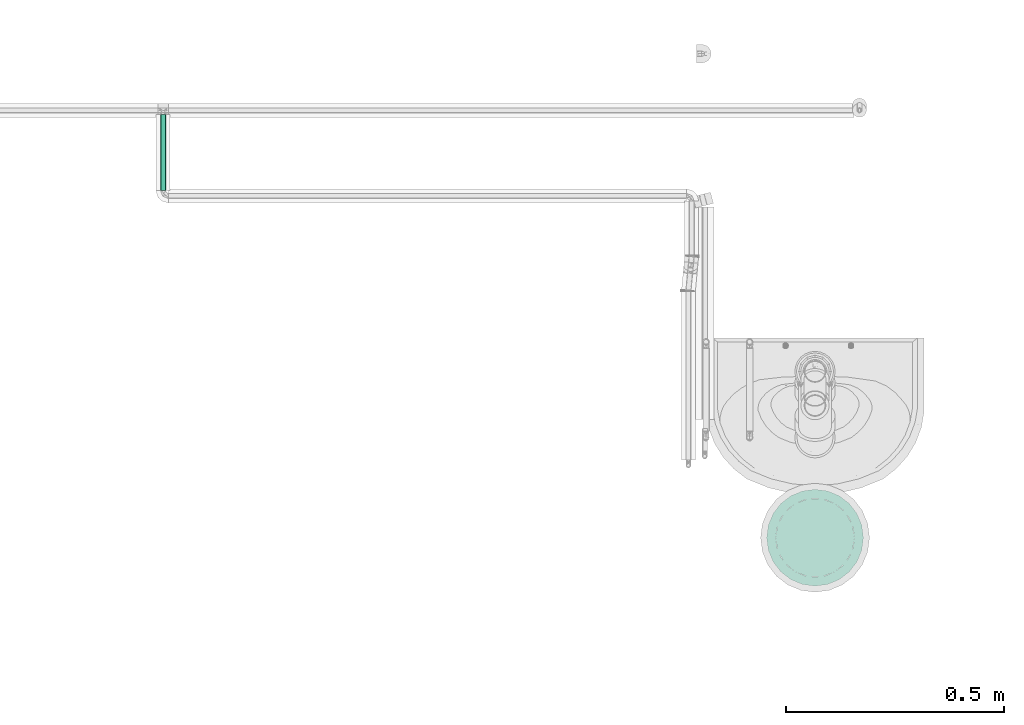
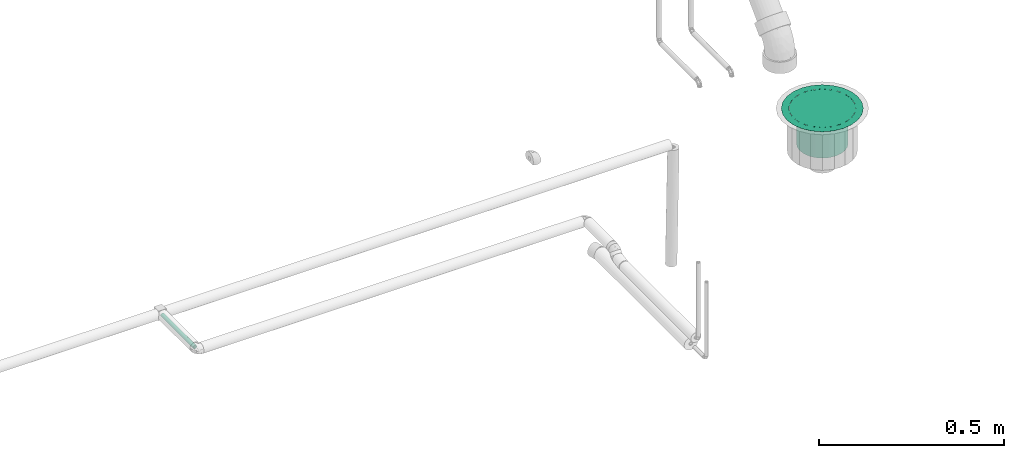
# One storey, part 55 of 108: 1 flow segment, 1 flow terminal.
"""IFC2X3 building model written with IfcOpenShell, lengths in millimetres."""

from ifc_helpers import new_model, entity, si_unit, converted_unit, derived_unit, direction, frame, origin_with_axes, origin_2d_with_axis, place, context, subcontext, project, spatial, hollow_circle, extrude, open_shell, surface_model, source, transform, mapped, type_object, element, save


model = new_model("IFC2X3")

# Units and contexts
model_context = context("Model", 3, precision=0.01, world=frame((0.0, 4.29681676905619e-09, 0.0)), true_north=direction((4.01073788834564e-13, 1.0)))
plan_context = context("Plan", 3, precision=0.01, world=frame((0.0, 4.29681676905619e-09, 0.0)), true_north=direction((4.01073788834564e-13, 1.0)))
body_context = subcontext(model_context, "Body", "Model", "MODEL_VIEW")
ifc_project = project(units=[converted_unit("PLANEANGLEUNIT", "DEGREE", entity("IfcPositiveLengthMeasure", 0.0174532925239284), si_unit("PLANEANGLEUNIT", "RADIAN"), dimensions=[0, 0, 0, 0, 0, 0, 0]), si_unit("AREAUNIT", "SQUARE_METRE"), si_unit("LENGTHUNIT", "METRE", prefix="MILLI"), si_unit("MASSUNIT", "GRAM", prefix="KILO"), si_unit("POWERUNIT", "WATT"), si_unit("PRESSUREUNIT", "PASCAL", prefix="KILO"), si_unit("FORCEUNIT", "NEWTON", prefix="KILO"), si_unit("ELECTRICVOLTAGEUNIT", "VOLT"), si_unit("ELECTRICCURRENTUNIT", "AMPERE"), si_unit("THERMODYNAMICTEMPERATUREUNIT", "DEGREE_CELSIUS"), si_unit("TIMEUNIT", "SECOND"), si_unit("VOLUMEUNIT", "CUBIC_METRE"), derived_unit("LINEARVELOCITYUNIT", [(si_unit("LENGTHUNIT", "METRE"), 1), (si_unit("TIMEUNIT", "SECOND"), -1)]), derived_unit("VOLUMETRICFLOWRATEUNIT", [(si_unit("VOLUMEUNIT", "CUBIC_METRE"), 1), (si_unit("TIMEUNIT", "SECOND"), -1)]), derived_unit("THERMALTRANSMITTANCEUNIT", [(si_unit("POWERUNIT", "WATT"), 1), (si_unit("THERMODYNAMICTEMPERATUREUNIT", "KELVIN"), -1), (si_unit("AREAUNIT", "SQUARE_METRE"), -1)]), derived_unit("SOUNDPRESSUREUNIT", [(si_unit("PRESSUREUNIT", "PASCAL"), 1)])], contexts=[model_context, plan_context])

# Site, building, storey
site_placement = place(None, frame((0.0, -4.29681676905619e-09, 0.0), z_axis=(0.0, 0.0, 1.0), x_axis=(1.0, 0.0, 0.0)))
site = spatial("IfcSite", under=ifc_project, at=site_placement, CompositionType="ELEMENT")
building_placement = place(site_placement, frame((0.0, 4.29681676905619e-09, 0.0), z_axis=(0.0, 0.0, 1.0), x_axis=(1.0, 0.0, 0.0)))
building = spatial("IfcBuilding", under=site, at=building_placement, Name="mc-building", CompositionType="ELEMENT")
storey_placement = place(building_placement, frame((0.0, 0.0, 210200.0), z_axis=(0.0, 0.0, 1.0), x_axis=(1.0, 0.0, 0.0)))
storey = spatial("IfcBuildingStorey", under=building, at=storey_placement, Name="Nivå F - 0,7 m", CompositionType="ELEMENT", Elevation=210200.0)

# Flow segment
pipe_segment_type = type_object("IfcPipeSegmentType", Name="Kobberrør", PredefinedType="RIGIDSEGMENT")
shared_shape_1 = source(origin_with_axes(), body_context, "Body", "SweptSolid", [
    extrude(hollow_circle(Radius=6.0, WallThickness=2.0, at=origin_2d_with_axis()), frame((0.0, 0.0, 0.0), z_axis=(1.0, 0.0, 0.0), x_axis=(0.0, 1.0, 0.0)), (0.0, 0.0, 1.0), 175.2),
])
flow_segment_placement = place(storey_placement, frame((337914.44674, 461294.19294, -735.809999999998), z_axis=(0.0, 0.0, 1.0), x_axis=(0.0, -1.0, 0.0)))
element("IfcFlowSegment", 1, at=flow_segment_placement, inside=storey, type_object=pipe_segment_type, Name="Kobberrør", context=body_context, shape_type="MappedRepresentation", body=[
    mapped(shared_shape_1, transform((0.0, 0.0, 0.0), scale=1.0)),
])

# Flow terminal
waste_terminal_type = type_object("IfcWasteTerminalType", Name="BM NO. 210.200.075 V  MULTI 206-75S D150 Horizontal", PredefinedType="NOTDEFINED")
shared_shape_2 = source(origin_with_axes(), body_context, "Body", "SurfaceModel", [
    surface_model("IfcShellBasedSurfaceModel", [(10.04218, -37.47792, -122.9), (19.4, -33.60178, -122.9), (27.43574, -27.43574, -122.9), (-38.8, 0.0, -122.9), (37.47792, -10.04218, -122.9), (33.60178, -19.4, -122.9), (-19.4, -33.60178, -122.9), (0.0, -38.8, -122.9), (-10.04218, -37.47792, -122.9), (-33.60178, -19.4, -122.9), (-27.43574, -27.43574, -122.9), (-37.47792, -10.04218, -122.9), (38.8, 0.0, -122.9), (37.47792, 10.04218, -122.9), (33.60178, 19.4, -122.9), (27.43574, 27.43574, -122.9), (19.4, 33.60178, -122.9), (10.04218, 37.47792, -122.9), (0.0, 38.8, -122.9), (-37.47792, 10.04218, -122.9), (-27.43574, 27.43574, -122.9), (-33.60178, 19.4, -122.9), (-10.04218, 37.47792, -122.9), (-19.4, 33.60178, -122.9), (0.0, 38.8, -123.1), (10.04218, 37.47792, -123.1), (19.4, 33.60178, -123.1), (-10.04218, 37.47792, -123.1), (27.43574, 27.43574, -123.1), (33.60178, 19.4, -123.1), (37.47792, 10.04218, -123.1), (-37.47792, 10.04218, -123.1), (-19.4, 33.60178, -123.1), (-27.43574, 27.43574, -123.1), (-33.60178, 19.4, -123.1), (10.04218, -37.47792, -123.1), (-38.8, 0.0, -123.1), (38.8, 0.0, -123.1), (37.47792, -10.04218, -123.1), (33.60178, -19.4, -123.1), (27.43574, -27.43574, -123.1), (19.4, -33.60178, -123.1), (-19.4, -33.60178, -123.1), (-33.60178, -19.4, -123.1), (-27.43574, -27.43574, -123.1), (-37.47792, -10.04218, -123.1), (0.0, -38.8, -123.1), (-10.04218, -37.47792, -123.1), (-55.5, 96.12882, 0.1), (-78.48885, 78.48885, 0.1), (-45.25, 78.3753, 0.1), (-63.99316, 63.99316, 0.1), (-23.42312, 87.41628, 0.1), (-28.72892, 107.21777, 0.1), (0.0, 90.5, 0.1), (0.0, 111.0, 0.1), (-87.41628, 23.42312, 0.1), (-96.12882, 55.5, 0.1), (-107.21777, 28.72892, 0.1), (-90.5, 0.0, 0.1), (-111.0, 0.0, 0.1), (-78.3753, 45.25, 0.1), (23.42312, 87.41628, 0.1), (28.72892, 107.21777, 0.1), (45.25, 78.3753, 0.1), (78.48885, 78.48885, 0.1), (55.5, 96.12882, 0.1), (63.99316, 63.99316, 0.1), (78.3753, 45.25, 0.1), (87.41628, 23.42312, 0.1), (96.12882, 55.5, 0.1), (107.21777, 28.72892, 0.1), (90.5, 0.0, 0.1), (111.0, 0.0, 0.1), (-87.41628, -23.42312, 0.1), (-107.21777, -28.72892, 0.1), (-78.3753, -45.25, 0.1), (-96.12882, -55.5, 0.1), (-63.99316, -63.99316, 0.1), (-78.48885, -78.48885, 0.1), (-45.25, -78.3753, 0.1), (-55.5, -96.12882, 0.1), (-23.42312, -87.41628, 0.1), (-28.72892, -107.21777, 0.1), (0.0, -90.5, 0.1), (0.0, -111.0, 0.1), (96.12882, -55.5, 0.1), (78.3753, -45.25, 0.1), (78.48885, -78.48885, 0.1), (87.41628, -23.42312, 0.1), (107.21777, -28.72892, 0.1), (63.99316, -63.99316, 0.1), (23.42312, -87.41628, 0.1), (28.72892, -107.21777, 0.1), (45.25, -78.3753, 0.1), (55.5, -96.12882, 0.1), (-55.5, -96.12882, -0.1), (-78.48885, -78.48885, -0.1), (-45.25, -78.3753, -0.1), (-63.99316, -63.99316, -0.1), (-23.42312, -87.41628, -0.1), (-28.72892, -107.21777, -0.1), (0.0, -90.5, -0.1), (0.0, -111.0, -0.1), (-87.41628, -23.42312, -0.1), (-96.12882, -55.5, -0.1), (-107.21777, -28.72892, -0.1), (-90.5, 0.0, -0.1), (-111.0, 0.0, -0.1), (-78.3753, -45.25, -0.1), (23.42312, -87.41628, -0.1), (28.72892, -107.21777, -0.1), (45.25, -78.3753, -0.1), (78.48885, -78.48885, -0.1), (55.5, -96.12882, -0.1), (63.99316, -63.99316, -0.1), (78.3753, -45.25, -0.1), (87.41628, -23.42312, -0.1), (96.12882, -55.5, -0.1), (107.21777, -28.72892, -0.1), (90.5, 0.0, -0.1), (111.0, 0.0, -0.1), (-87.41628, 23.42312, -0.1), (-107.21777, 28.72892, -0.1), (-78.3753, 45.25, -0.1), (-96.12882, 55.5, -0.1), (-63.99316, 63.99316, -0.1), (-78.48885, 78.48885, -0.1), (-45.25, 78.3753, -0.1), (-55.5, 96.12882, -0.1), (-23.42312, 87.41628, -0.1), (-28.72892, 107.21777, -0.1), (0.0, 90.5, -0.1), (0.0, 111.0, -0.1), (96.12882, 55.5, -0.1), (78.3753, 45.25, -0.1), (78.48885, 78.48885, -0.1), (87.41628, 23.42312, -0.1), (107.21777, 28.72892, -0.1), (63.99316, 63.99316, -0.1), (23.42312, 87.41628, -0.1), (28.72892, 107.21777, -0.1), (45.25, 78.3753, -0.1), (55.5, 96.12882, -0.1), (-10.79227, 47.28401, -115.5), (-30.23926, 37.91883, -115.5), (-43.69699, 21.04336, -115.5), (43.69699, -21.04336, -115.5), (43.69699, 21.04336, -115.5), (10.79227, 47.28401, -115.5), (30.23926, 37.91883, -115.5), (-48.5, 0.0, -115.5), (-43.69699, -21.04336, -115.5), (-30.23926, -37.91883, -115.5), (-10.79227, -47.28401, -115.5), (10.79227, -47.28401, -115.5), (48.5, 0.0, -115.5), (30.23926, -37.91883, -115.5), (38.8, 0.0, -123.0), (0.0, 38.8, -123.0), (19.4, 33.60178, -123.0), (-19.4, 33.60178, -123.0), (-38.8, 0.0, -123.0), (-33.60178, 19.4, -123.0), (33.60178, 19.4, -123.0), (0.0, -38.8, -123.0), (33.60178, -19.4, -123.0), (19.4, -33.60178, -123.0), (-33.60178, -19.4, -123.0), (-19.4, -33.60178, -123.0), (-26.50089, -26.50089, -123.0), (-20.51576, -42.60141, -115.5), (-36.96812, -29.48109, -115.5), (-36.20089, -9.7, -123.0), (26.50089, -26.50089, -123.0), (46.09849, -10.52168, -115.5), (36.20089, -9.7, -123.0), (-9.7, -36.20089, -123.0), (0.0, -47.28401, -115.5), (20.51576, -42.60141, -115.5), (-46.09849, -10.52168, -115.5), (9.7, -36.20089, -123.0), (36.96812, -29.48109, -115.5), (26.50089, 26.50089, -123.0), (20.51576, 42.60141, -115.5), (36.96812, 29.48109, -115.5), (36.20089, 9.7, -123.0), (-26.50089, 26.50089, -123.0), (-46.09849, 10.52168, -115.5), (-36.20089, 9.7, -123.0), (9.7, 36.20089, -123.0), (0.0, 47.28401, -115.5), (-20.51576, 42.60141, -115.5), (46.09849, 10.52168, -115.5), (-9.7, 36.20089, -123.0), (-36.96812, 29.48109, -115.5), (-45.25, 78.3753, 0.0), (-69.32702, 58.17228, 0.0), (-85.04218, 30.95282, 0.0), (69.32702, -58.17228, 0.0), (-15.71516, 89.1251, 0.0), (-45.25, -78.3753, 0.0), (15.71516, 89.1251, 0.0), (45.25, 78.3753, 0.0), (69.32702, 58.17228, 0.0), (90.5, 0.0, 0.0), (85.04218, 30.95282, 0.0), (-90.5, 0.0, 0.0), (-85.04218, -30.95282, 0.0), (-69.32702, -58.17228, 0.0), (45.25, -78.3753, 0.0), (-15.71516, -89.1251, 0.0), (85.04218, -30.95282, 0.0), (15.71516, -89.1251, 0.0), (-26.78784, 64.67157, -20.0), (0.0, 70.0, -20.0), (26.78784, 64.67157, -20.0), (49.49747, 49.49747, -20.0), (-49.49747, -49.49747, -20.0), (-49.49747, 49.49747, -20.0), (-64.67157, 26.78784, -20.0), (-70.0, 0.0, -20.0), (64.67157, 26.78784, -20.0), (70.0, 0.0, -20.0), (64.67157, -26.78784, -20.0), (49.49747, -49.49747, -20.0), (26.78784, -64.67157, -20.0), (-64.67157, -26.78784, -20.0), (0.0, -70.0, -20.0), (-26.78784, -64.67157, -20.0), (-67.33578, -13.39392, -20.0), (38.14266, -57.08452, -20.0), (-38.14266, -57.08452, -20.0), (-13.39392, -67.33578, -20.0), (-57.08452, -38.14266, -20.0), (13.39392, -67.33578, -20.0), (57.08452, -38.14266, -20.0), (67.33578, -13.39392, -20.0), (67.33578, 13.39392, -20.0), (-38.14266, 57.08452, -20.0), (38.14266, 57.08452, -20.0), (13.39392, 67.33578, -20.0), (57.08452, 38.14266, -20.0), (-13.39392, 67.33578, -20.0), (-57.08452, 38.14266, -20.0), (-67.33578, 13.39392, -20.0), (67.61481, -18.11733, -20.0), (18.11733, -67.61481, -20.0), (35.0, -60.62178, -20.0), (-35.0, -60.62178, -20.0), (60.62178, -35.0, -20.0), (18.11733, 67.61481, -20.0), (-60.62178, -35.0, -20.0), (-18.11733, -67.61481, -20.0), (-67.61481, -18.11733, -20.0), (67.61481, 18.11733, -20.0), (60.62178, 35.0, -20.0), (35.0, 60.62178, -20.0), (-67.61481, 18.11733, -20.0), (-60.62178, 35.0, -20.0), (-35.0, 60.62178, -20.0), (-18.11733, 67.61481, -20.0), (18.11733, 67.61481, -105.5), (-70.0, 0.0, -105.5), (0.0, 70.0, -105.5), (49.49747, 49.49747, -105.5), (35.0, 60.62178, -105.5), (60.62178, 35.0, -105.5), (67.61481, 18.11733, -105.5), (-35.0, 60.62178, -105.5), (-18.11733, 67.61481, -105.5), (-49.49747, 49.49747, -105.5), (-67.61481, 18.11733, -105.5), (-60.62178, 35.0, -105.5), (70.0, 0.0, -105.5), (67.61481, -18.11733, -105.5), (0.0, -70.0, -105.5), (49.49747, -49.49747, -105.5), (60.62178, -35.0, -105.5), (35.0, -60.62178, -105.5), (18.11733, -67.61481, -105.5), (-60.62178, -35.0, -105.5), (-35.0, -60.62178, -105.5), (-49.49747, -49.49747, -105.5), (-67.61481, -18.11733, -105.5), (-18.11733, -67.61481, -105.5), (34.9, -60.44857, -105.5), (18.06557, -67.42162, -105.5), (0.0, -69.8, -105.5), (49.35605, -49.35605, -105.5), (69.8, 0.0, -105.5), (67.42162, -18.06557, -105.5), (60.44857, -34.9, -105.5), (-18.06557, -67.42162, -105.5), (-34.9, -60.44857, -105.5), (-49.35605, -49.35605, -105.5), (-60.44857, -34.9, -105.5), (-67.42162, -18.06557, -105.5), (-69.8, 0.0, -105.5), (67.42162, 18.06557, -105.5), (60.44857, 34.9, -105.5), (49.35605, 49.35605, -105.5), (34.9, 60.44857, -105.5), (18.06557, 67.42162, -105.5), (0.0, 69.8, -105.5), (-60.44857, 34.9, -105.5), (-49.35605, 49.35605, -105.5), (-67.42162, 18.06557, -105.5), (-18.06557, 67.42162, -105.5), (-34.9, 60.44857, -105.5), (18.11733, 67.61481, -115.5), (-70.0, 0.0, -115.5), (0.0, 70.0, -115.5), (49.49747, 49.49747, -115.5), (35.0, 60.62178, -115.5), (60.62178, 35.0, -115.5), (67.61481, 18.11733, -115.5), (-35.0, 60.62178, -115.5), (-18.11733, 67.61481, -115.5), (-49.49747, 49.49747, -115.5), (-67.61481, 18.11733, -115.5), (-60.62178, 35.0, -115.5), (70.0, 0.0, -115.5), (67.61481, -18.11733, -115.5), (0.0, -70.0, -115.5), (49.49747, -49.49747, -115.5), (60.62178, -35.0, -115.5), (35.0, -60.62178, -115.5), (18.11733, -67.61481, -115.5), (-60.62178, -35.0, -115.5), (-35.0, -60.62178, -115.5), (-49.49747, -49.49747, -115.5), (-67.61481, -18.11733, -115.5), (-18.11733, -67.61481, -115.5), (0.0, 69.8, -115.3), (-49.35605, 49.35605, -115.3), (18.06557, 67.42162, -115.3), (34.9, 60.44857, -115.3), (49.35605, 49.35605, -115.3), (67.42162, 18.06557, -115.3), (60.44857, 34.9, -115.3), (-69.8, 0.0, -115.3), (-67.42162, -18.06557, -115.3), (-18.06557, 67.42162, -115.3), (-34.9, 60.44857, -115.3), (-67.42162, 18.06557, -115.3), (-60.44857, 34.9, -115.3), (67.42162, -18.06557, -115.3), (60.44857, -34.9, -115.3), (18.06557, -67.42162, -115.3), (34.9, -60.44857, -115.3), (49.35605, -49.35605, -115.3), (-34.9, -60.44857, -115.3), (-60.44857, -34.9, -115.3), (-49.35605, -49.35605, -115.3), (-18.06557, -67.42162, -115.3), (0.0, -69.8, -115.3), (69.8, 0.0, -115.3)], [open_shell([[[0, 1, 2]], [[3, 0, 2]], [[3, 2, 4]], [[4, 2, 5]], [[6, 0, 3]], [[7, 6, 8]], [[7, 0, 6]], [[6, 9, 10]], [[6, 3, 9]], [[9, 3, 11]], [[4, 12, 13]], [[13, 14, 15]], [[4, 15, 3]], [[16, 17, 18]], [[3, 15, 16]], [[3, 16, 18]], [[19, 20, 21]], [[22, 19, 3]], [[19, 23, 20]], [[23, 19, 22]], [[3, 18, 22]], [[15, 4, 13]], [[24, 25, 26]], [[27, 24, 26]], [[28, 29, 30]], [[27, 26, 28]], [[31, 28, 30]], [[32, 31, 33]], [[32, 27, 28]], [[33, 31, 34]], [[28, 31, 32]], [[31, 35, 36]], [[31, 30, 37]], [[31, 38, 35]], [[35, 38, 39]], [[40, 41, 35]], [[40, 35, 39]], [[42, 36, 35]], [[43, 42, 44]], [[45, 36, 43]], [[42, 46, 47]], [[43, 36, 42]], [[46, 42, 35]], [[37, 38, 31]], [[45, 11, 36]], [[43, 9, 45]], [[6, 44, 42]], [[43, 44, 10]], [[8, 42, 47]], [[45, 9, 11]], [[11, 3, 36]], [[8, 6, 42]], [[10, 44, 6]], [[10, 9, 43]], [[7, 8, 47]], [[47, 46, 7]], [[35, 0, 46]], [[41, 1, 35]], [[5, 40, 39]], [[41, 40, 2]], [[4, 39, 38]], [[41, 2, 1]], [[1, 0, 35]], [[12, 4, 38]], [[5, 39, 4]], [[5, 2, 40]], [[37, 12, 38]], [[46, 0, 7]], [[30, 13, 37]], [[29, 14, 30]], [[16, 28, 26]], [[29, 28, 15]], [[17, 26, 25]], [[30, 14, 13]], [[13, 12, 37]], [[17, 16, 26]], [[15, 28, 16]], [[15, 14, 29]], [[18, 17, 25]], [[25, 24, 18]], [[27, 22, 24]], [[32, 23, 27]], [[21, 33, 34]], [[32, 33, 20]], [[19, 34, 31]], [[32, 20, 23]], [[23, 22, 27]], [[3, 19, 31]], [[21, 34, 19]], [[21, 20, 33]], [[36, 3, 31]], [[24, 22, 18]], [[48, 49, 50]], [[50, 49, 51]], [[48, 50, 52]], [[53, 52, 54]], [[52, 53, 48]], [[53, 54, 55]], [[56, 57, 58]], [[59, 58, 60]], [[56, 58, 59]], [[61, 51, 57]], [[56, 61, 57]], [[57, 51, 49]], [[55, 62, 63]], [[55, 54, 62]], [[63, 62, 64]], [[65, 66, 67]], [[64, 66, 63]], [[67, 66, 64]], [[68, 69, 70]], [[68, 70, 65]], [[69, 71, 70]], [[71, 69, 72]], [[71, 72, 73]], [[68, 65, 67]], [[74, 60, 75]], [[76, 75, 77]], [[76, 74, 75]], [[78, 76, 77]], [[77, 79, 78]], [[80, 79, 81]], [[79, 80, 78]], [[80, 81, 82]], [[82, 83, 84]], [[83, 82, 81]], [[84, 83, 85]], [[86, 87, 88]], [[89, 87, 90]], [[89, 90, 73]], [[90, 87, 86]], [[87, 91, 88]], [[73, 72, 89]], [[92, 85, 93]], [[85, 92, 84]], [[92, 93, 94]], [[95, 88, 91]], [[95, 94, 93]], [[95, 91, 94]], [[74, 59, 60]], [[96, 97, 98]], [[98, 97, 99]], [[96, 98, 100]], [[101, 100, 102]], [[100, 101, 96]], [[101, 102, 103]], [[104, 105, 106]], [[107, 106, 108]], [[104, 106, 107]], [[109, 99, 105]], [[104, 109, 105]], [[105, 99, 97]], [[103, 110, 111]], [[103, 102, 110]], [[111, 110, 112]], [[113, 114, 115]], [[112, 114, 111]], [[115, 114, 112]], [[116, 117, 118]], [[116, 118, 113]], [[117, 119, 118]], [[119, 117, 120]], [[119, 120, 121]], [[116, 113, 115]], [[122, 108, 123]], [[124, 123, 125]], [[124, 122, 123]], [[126, 124, 125]], [[125, 127, 126]], [[128, 127, 129]], [[127, 128, 126]], [[128, 129, 130]], [[130, 131, 132]], [[131, 130, 129]], [[132, 131, 133]], [[134, 135, 136]], [[137, 135, 138]], [[137, 138, 121]], [[138, 135, 134]], [[135, 139, 136]], [[121, 120, 137]], [[140, 133, 141]], [[133, 140, 132]], [[140, 141, 142]], [[143, 136, 139]], [[143, 142, 141]], [[143, 139, 142]], [[122, 107, 108]], [[59, 107, 56]], [[56, 122, 61]], [[50, 51, 126]], [[124, 51, 61]], [[52, 50, 128]], [[122, 124, 61]], [[56, 107, 122]], [[132, 54, 130]], [[52, 128, 130]], [[128, 50, 126]], [[51, 124, 126]], [[52, 130, 54]], [[62, 140, 64]], [[64, 142, 67]], [[69, 68, 135]], [[139, 68, 67]], [[72, 69, 137]], [[140, 142, 64]], [[62, 132, 140]], [[69, 135, 137]], [[135, 68, 139]], [[67, 142, 139]], [[72, 137, 120]], [[54, 132, 62]], [[72, 120, 89]], [[89, 117, 87]], [[94, 91, 115]], [[116, 91, 87]], [[92, 94, 112]], [[117, 116, 87]], [[89, 120, 117]], [[102, 84, 110]], [[92, 112, 110]], [[112, 94, 115]], [[91, 116, 115]], [[92, 110, 84]], [[82, 100, 80]], [[80, 98, 78]], [[104, 59, 74]], [[78, 99, 76]], [[74, 76, 109]], [[100, 98, 80]], [[82, 102, 100]], [[59, 104, 107]], [[109, 76, 99]], [[78, 98, 99]], [[109, 104, 74]], [[84, 102, 82]], [[106, 75, 108]], [[105, 77, 106]], [[81, 97, 96]], [[105, 97, 79]], [[83, 96, 101]], [[106, 77, 75]], [[75, 60, 108]], [[83, 81, 96]], [[79, 97, 81]], [[79, 77, 105]], [[85, 83, 101]], [[101, 103, 85]], [[111, 93, 103]], [[114, 95, 111]], [[86, 113, 118]], [[114, 113, 88]], [[90, 118, 119]], [[114, 88, 95]], [[95, 93, 111]], [[73, 90, 119]], [[86, 118, 90]], [[86, 88, 113]], [[121, 73, 119]], [[103, 93, 85]], [[138, 71, 121]], [[134, 70, 138]], [[66, 136, 143]], [[134, 136, 65]], [[63, 143, 141]], [[138, 70, 71]], [[71, 73, 121]], [[63, 66, 143]], [[65, 136, 66]], [[65, 70, 134]], [[55, 63, 141]], [[141, 133, 55]], [[131, 53, 133]], [[129, 48, 131]], [[123, 108, 58]], [[127, 49, 129]], [[129, 49, 48]], [[48, 53, 131]], [[125, 57, 49]], [[57, 125, 58]], [[58, 125, 123]], [[108, 60, 58]], [[125, 49, 127]], [[133, 53, 55]], [[144, 145, 146]], [[147, 148, 146]], [[149, 144, 148]], [[148, 150, 149]], [[144, 146, 148]], [[146, 151, 152]], [[152, 153, 154]], [[152, 154, 155]], [[148, 147, 156]], [[155, 157, 147]], [[152, 155, 147]], [[147, 146, 152]], [[158, 159, 160]], [[158, 161, 159]], [[161, 162, 163]], [[158, 162, 161]], [[158, 160, 164]], [[165, 158, 166]], [[165, 166, 167]], [[168, 165, 169]], [[168, 162, 165]], [[165, 162, 158]], [[170, 169, 153]], [[171, 153, 169]], [[172, 152, 168]], [[168, 152, 173]], [[157, 167, 174]], [[158, 175, 176]], [[171, 177, 154]], [[165, 178, 154]], [[167, 157, 179]], [[173, 152, 180]], [[165, 155, 178]], [[181, 167, 179]], [[162, 180, 151]], [[170, 153, 172]], [[162, 173, 180]], [[168, 170, 172]], [[175, 147, 176]], [[155, 181, 179]], [[177, 165, 154]], [[166, 182, 174]], [[147, 166, 176]], [[177, 171, 169]], [[182, 166, 147]], [[155, 165, 181]], [[182, 157, 174]], [[175, 158, 156]], [[183, 160, 150]], [[184, 150, 160]], [[185, 148, 164]], [[164, 148, 186]], [[145, 161, 187]], [[162, 188, 189]], [[184, 190, 149]], [[159, 191, 149]], [[161, 145, 192]], [[186, 148, 193]], [[159, 144, 191]], [[194, 161, 192]], [[158, 193, 156]], [[183, 150, 185]], [[158, 186, 193]], [[164, 183, 185]], [[188, 146, 189]], [[144, 194, 192]], [[190, 159, 149]], [[163, 195, 187]], [[146, 163, 189]], [[190, 184, 160]], [[195, 163, 146]], [[144, 159, 194]], [[195, 145, 187]], [[188, 162, 151]], [[196, 197, 198]], [[196, 199, 200]], [[198, 201, 196]], [[202, 200, 203]], [[200, 204, 203]], [[204, 200, 199]], [[204, 205, 206]], [[198, 207, 208]], [[208, 209, 201]], [[201, 210, 196]], [[210, 201, 211]], [[212, 205, 199]], [[199, 205, 204]], [[210, 199, 196]], [[211, 213, 210]], [[208, 201, 198]], [[214, 215, 216]], [[214, 216, 217]], [[217, 218, 214]], [[219, 214, 220]], [[218, 221, 220]], [[218, 220, 214]], [[217, 222, 218]], [[223, 224, 225]], [[225, 226, 223]], [[223, 226, 218]], [[221, 218, 227]], [[228, 229, 218]], [[226, 228, 218]], [[218, 222, 223]], [[207, 230, 208]], [[210, 226, 231]], [[201, 218, 232]], [[233, 228, 211]], [[208, 234, 209]], [[218, 201, 209]], [[234, 208, 227]], [[229, 211, 201]], [[213, 228, 235]], [[211, 229, 233]], [[226, 213, 235]], [[230, 227, 208]], [[224, 212, 236]], [[230, 207, 221]], [[225, 210, 231]], [[232, 229, 201]], [[237, 223, 205]], [[212, 224, 237]], [[226, 210, 213]], [[234, 218, 209]], [[236, 212, 199]], [[237, 205, 212]], [[199, 225, 236]], [[199, 210, 225]], [[228, 213, 211]], [[205, 238, 206]], [[196, 214, 239]], [[203, 217, 240]], [[241, 215, 202]], [[206, 242, 204]], [[217, 203, 204]], [[242, 206, 222]], [[216, 202, 203]], [[200, 215, 243]], [[202, 216, 241]], [[214, 200, 243]], [[238, 222, 206]], [[220, 198, 244]], [[238, 205, 223]], [[219, 196, 239]], [[240, 216, 203]], [[245, 221, 207]], [[198, 220, 245]], [[214, 196, 200]], [[242, 217, 204]], [[244, 198, 197]], [[245, 207, 198]], [[197, 219, 244]], [[197, 196, 219]], [[215, 200, 202]], [[246, 247, 248]], [[246, 248, 225]], [[247, 246, 249]], [[246, 225, 250]], [[246, 251, 252]], [[228, 249, 253]], [[228, 247, 249]], [[249, 252, 218]], [[246, 252, 249]], [[252, 221, 254]], [[246, 223, 255]], [[255, 256, 217]], [[255, 217, 257]], [[219, 252, 251]], [[246, 257, 251]], [[219, 251, 215]], [[258, 219, 259]], [[219, 258, 221]], [[215, 260, 219]], [[221, 252, 219]], [[261, 260, 215]], [[246, 255, 257]], [[262, 263, 264]], [[265, 262, 266]], [[265, 267, 268]], [[265, 268, 262]], [[263, 262, 268]], [[264, 269, 270]], [[264, 271, 269]], [[271, 272, 273]], [[272, 271, 263]], [[264, 263, 271]], [[268, 274, 263]], [[275, 276, 274]], [[277, 275, 278]], [[279, 280, 275]], [[279, 275, 277]], [[276, 275, 280]], [[281, 282, 283]], [[284, 263, 281]], [[282, 276, 285]], [[282, 281, 274]], [[276, 282, 274]], [[281, 263, 274]], [[254, 284, 281]], [[283, 252, 281]], [[249, 282, 285]], [[283, 282, 218]], [[253, 285, 276]], [[284, 221, 263]], [[284, 254, 221]], [[281, 252, 254]], [[283, 218, 252]], [[249, 218, 282]], [[285, 253, 249]], [[276, 228, 253]], [[247, 280, 279]], [[277, 248, 279]], [[250, 278, 275]], [[277, 278, 225]], [[246, 275, 274]], [[280, 247, 228]], [[279, 248, 247]], [[277, 225, 248]], [[278, 250, 225]], [[246, 250, 275]], [[274, 223, 246]], [[280, 228, 276]], [[268, 255, 274]], [[267, 256, 268]], [[251, 262, 264]], [[265, 217, 267]], [[268, 256, 255]], [[255, 223, 274]], [[266, 257, 217]], [[266, 262, 257]], [[262, 251, 257]], [[217, 256, 267]], [[217, 265, 266]], [[264, 215, 251]], [[261, 270, 269]], [[271, 260, 269]], [[259, 273, 272]], [[271, 273, 219]], [[258, 272, 263]], [[270, 261, 215]], [[269, 260, 261]], [[271, 219, 260]], [[273, 259, 219]], [[258, 259, 272]], [[263, 221, 258]], [[270, 215, 264]], [[279, 277, 286]], [[279, 286, 287]], [[288, 280, 287]], [[280, 288, 276]], [[287, 280, 279]], [[286, 277, 289]], [[275, 290, 291]], [[290, 275, 274]], [[275, 291, 278]], [[289, 278, 292]], [[278, 289, 277]], [[292, 278, 291]], [[276, 293, 285]], [[285, 293, 294]], [[283, 282, 295]], [[294, 282, 285]], [[294, 295, 282]], [[276, 288, 293]], [[296, 281, 283]], [[281, 296, 297]], [[296, 283, 295]], [[284, 297, 298]], [[297, 284, 281]], [[284, 298, 263]], [[274, 268, 299]], [[299, 268, 300]], [[300, 267, 301]], [[267, 300, 268]], [[301, 267, 265]], [[265, 266, 302]], [[302, 266, 303]], [[303, 262, 304]], [[262, 303, 266]], [[304, 262, 264]], [[302, 301, 265]], [[273, 305, 271]], [[271, 305, 306]], [[305, 273, 272]], [[263, 307, 272]], [[272, 307, 305]], [[263, 298, 307]], [[308, 264, 270]], [[308, 270, 309]], [[306, 269, 271]], [[306, 309, 269]], [[269, 309, 270]], [[304, 264, 308]], [[299, 290, 274]], [[310, 311, 312]], [[313, 310, 314]], [[313, 315, 316]], [[313, 316, 310]], [[311, 310, 316]], [[312, 317, 318]], [[312, 319, 317]], [[319, 320, 321]], [[320, 319, 311]], [[312, 311, 319]], [[316, 322, 311]], [[323, 324, 322]], [[325, 323, 326]], [[327, 328, 323]], [[327, 323, 325]], [[324, 323, 328]], [[329, 330, 331]], [[332, 311, 329]], [[330, 324, 333]], [[330, 329, 322]], [[324, 330, 322]], [[329, 311, 322]], [[332, 284, 311]], [[329, 281, 332]], [[282, 331, 330]], [[329, 331, 283]], [[285, 330, 333]], [[332, 281, 284]], [[284, 263, 311]], [[285, 282, 330]], [[283, 331, 282]], [[283, 281, 329]], [[276, 285, 333]], [[333, 324, 276]], [[328, 280, 324]], [[327, 279, 328]], [[278, 325, 326]], [[327, 325, 277]], [[275, 326, 323]], [[327, 277, 279]], [[279, 280, 328]], [[274, 275, 323]], [[278, 326, 275]], [[278, 277, 325]], [[322, 274, 323]], [[324, 280, 276]], [[316, 268, 322]], [[315, 267, 316]], [[266, 313, 314]], [[315, 313, 265]], [[262, 314, 310]], [[316, 267, 268]], [[268, 274, 322]], [[262, 266, 314]], [[265, 313, 266]], [[265, 267, 315]], [[264, 262, 310]], [[310, 312, 264]], [[318, 270, 312]], [[317, 269, 318]], [[273, 319, 321]], [[317, 319, 271]], [[272, 321, 320]], [[317, 271, 269]], [[269, 270, 318]], [[263, 272, 320]], [[273, 321, 272]], [[273, 271, 319]], [[311, 263, 320]], [[312, 270, 264]], [[334, 335, 336]], [[337, 336, 338]], [[339, 340, 338]], [[341, 338, 336]], [[341, 342, 338]], [[343, 344, 334]], [[344, 335, 334]], [[345, 341, 346]], [[335, 346, 341]], [[335, 341, 336]], [[342, 339, 338]], [[347, 339, 342]], [[348, 347, 349]], [[348, 349, 350]], [[351, 348, 350]], [[349, 347, 352]], [[353, 354, 342]], [[352, 342, 354]], [[355, 356, 352]], [[347, 342, 352]], [[352, 356, 349]], [[357, 339, 347]], [[341, 297, 342]], [[342, 296, 353]], [[352, 354, 294]], [[295, 354, 353]], [[355, 352, 293]], [[297, 296, 342]], [[341, 298, 297]], [[352, 294, 293]], [[294, 354, 295]], [[353, 296, 295]], [[355, 293, 288]], [[288, 356, 355]], [[356, 287, 349]], [[349, 286, 350]], [[348, 351, 292]], [[289, 351, 350]], [[347, 348, 291]], [[286, 289, 350]], [[349, 287, 286]], [[347, 291, 290]], [[291, 348, 292]], [[351, 289, 292]], [[347, 290, 357]], [[288, 287, 356]], [[357, 299, 339]], [[339, 300, 340]], [[337, 338, 302]], [[301, 338, 340]], [[336, 337, 303]], [[299, 300, 339]], [[357, 290, 299]], [[337, 302, 303]], [[302, 338, 301]], [[340, 300, 301]], [[336, 303, 304]], [[304, 334, 336]], [[334, 308, 343]], [[343, 309, 344]], [[346, 335, 305]], [[306, 335, 344]], [[345, 346, 307]], [[309, 306, 344]], [[343, 308, 309]], [[345, 307, 298]], [[307, 346, 305]], [[335, 306, 305]], [[345, 298, 341]], [[304, 308, 334]]])]),
])
flow_terminal_placement = place(storey_placement, frame((339410.04566, 460322.84717, 10.0), z_axis=(0.0, 0.0, 1.0), x_axis=(1.0, 0.0, 0.0)))
element("IfcFlowTerminal", 2, at=flow_terminal_placement, inside=storey, type_object=waste_terminal_type, Name="BM NO. 210.200.075 V  MULTI 206-75S D150 Horizontal", context=body_context, shape_type="MappedRepresentation", body=[
    mapped(shared_shape_2, transform((0.0, 0.0, 0.0), scale=1.0)),
])

save(model, "model.ifc")
